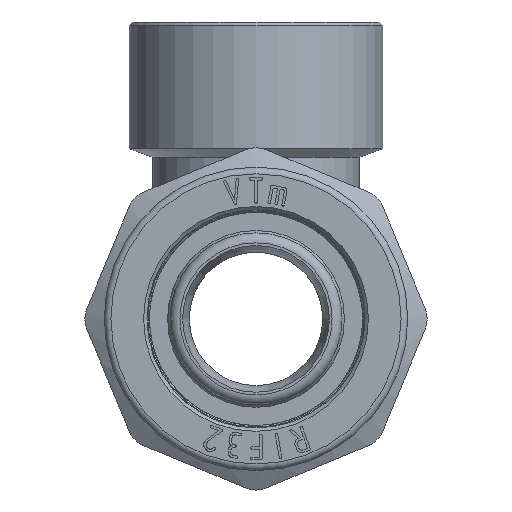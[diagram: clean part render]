
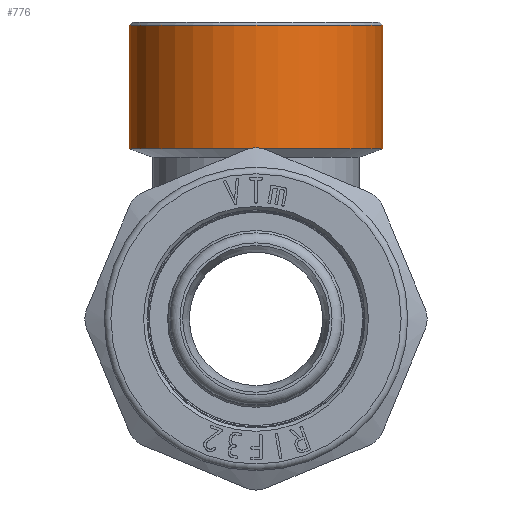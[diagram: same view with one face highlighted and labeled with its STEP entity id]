
A CAD part, front view. The second image highlights one B-rep face of the part: STEP entity #776.
In plain terms, the highlighted cylindrical face has radius 19 mm (diameter 38 mm), a full revolution.
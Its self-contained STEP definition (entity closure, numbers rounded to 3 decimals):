
#776=ADVANCED_FACE('',(#5948,#5950),#5952,.T.);
#5948=FACE_OUTER_BOUND('',#5949,.T.);
#5949=EDGE_LOOP('',(#11380));
#5950=FACE_OUTER_BOUND('',#5951,.T.);
#5951=EDGE_LOOP('',(#11381));
#5952=CYLINDRICAL_SURFACE('',#5953,19.);
#5953=AXIS2_PLACEMENT_3D('',#5954,#5955,#5956);
#5954=CARTESIAN_POINT('',(0.,0.,25.5));
#5955=DIRECTION('',(0.,0.,1.));
#5956=DIRECTION('',(-1.,0.,0.));
#11380=ORIENTED_EDGE('',*,*,#13506,.F.);
#11381=ORIENTED_EDGE('',*,*,#13471,.F.);
#13471=EDGE_CURVE('',#16841,#16841,#16842,.F.);
#13506=EDGE_CURVE('',#16895,#16895,#16896,.T.);
#16841=VERTEX_POINT('',#28633);
#16842=CIRCLE('',#28634,19.);
#16895=VERTEX_POINT('',#28760);
#16896=CIRCLE('',#28761,19.);
#28633=CARTESIAN_POINT('',(-19.,0.,25.5));
#28634=AXIS2_PLACEMENT_3D('',#28635,#28636,#28637);
#28635=CARTESIAN_POINT('',(0.,0.,25.5));
#28636=DIRECTION('',(0.,0.,1.));
#28637=DIRECTION('',(-1.,0.,0.));
#28760=CARTESIAN_POINT('',(-19.,0.,44.));
#28761=AXIS2_PLACEMENT_3D('',#28762,#28763,#28764);
#28762=CARTESIAN_POINT('',(0.,0.,44.));
#28763=DIRECTION('',(0.,0.,1.));
#28764=DIRECTION('',(-1.,0.,0.));
